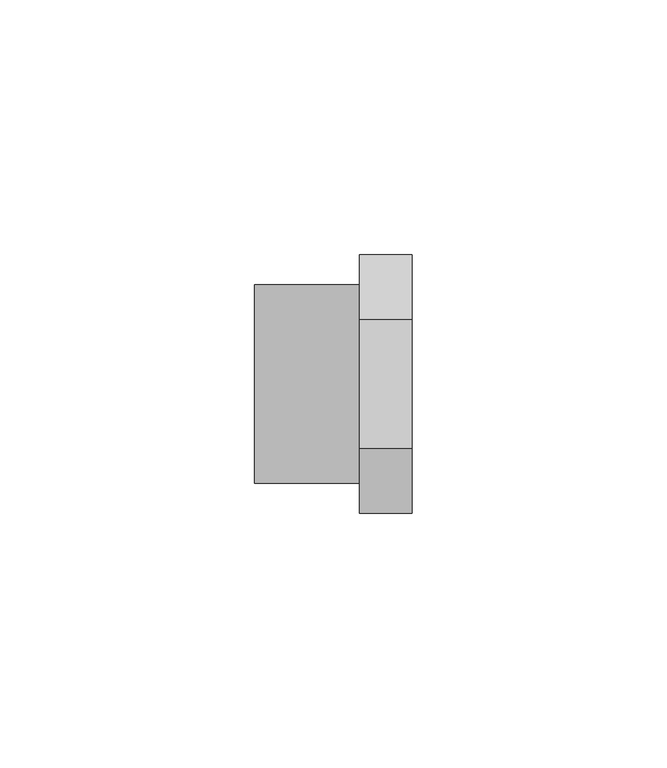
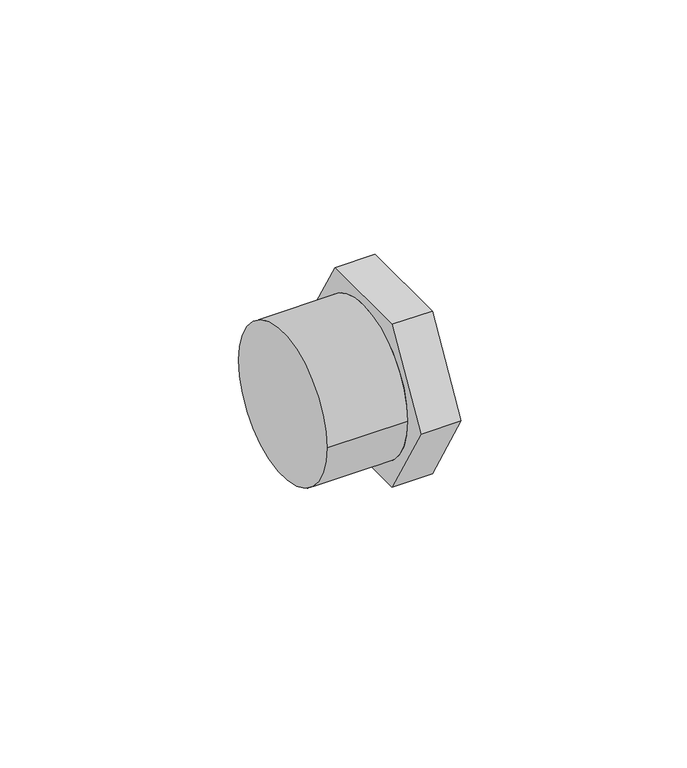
"""IFC4 building model written with IfcOpenShell, lengths in millimetres: pipe fitting geometry, 01011080 : Réductions courtes MxF."""

from ifc_helpers import new_model, si_unit, point, frame, origin, origin_2d, place, context, project, spatial, circle_curve, trimmed, segment, composite_curve, outline, extrude, source, transform, mapped, element, save
from ifc_brep_helpers import plane_surface, cylinder_surface, advanced_brep


def pipe_fitting_d2936eeb(model_context):
    return source(origin(), model_context, "Body", "SolidModel", [
        extrude(outline(composite_curve([segment(trimmed(circle_curve(origin_2d(), 19.525), [point((-19.525, 0.0))], [point((19.525, 0.0))], False, "CARTESIAN"), True, "CONTINUOUS"), segment(trimmed(circle_curve(origin_2d(), 19.525), [point((19.525, 0.0))], [point((-19.525, 0.0))], False, "CARTESIAN"), True, "CONTINUOUS")], self_intersect=False)), frame((0.0, 0.0, 0.0), z_axis=(1.0, 0.0, 0.0), x_axis=(0.0, 1.0, 0.0)), (0.0, 0.0, 1.0), 20.6666667),
        advanced_brep(
        [(31.0, -12.7017059, 22.0), (31.0, -25.4034118, 0.0), (31.0, -12.7017059, -22.0), (31.0, 12.7017059, -22.0), (31.0, 25.4034118, 0.0), (31.0, 12.7017059, 22.0), (20.6666667, -12.7017059, 22.0), (20.6666667, 12.7017059, 22.0), (20.6666667, 25.4034118, 0.0), (20.6666667, 12.7017059, -22.0), (20.6666667, -12.7017059, -22.0), (20.6666667, -25.4034118, 0.0), (20.6666667, 19.525, 0.0), (20.6666667, -19.525, 0.0), (0.0, 19.525, 0.0), (0.0, -19.525, 0.0)],
        [
            (0, 1),
            (1, 2),
            (2, 3),
            (3, 4),
            (4, 5),
            (5, 0),
            (6, 7),
            (7, 8),
            (8, 9),
            (9, 10),
            (10, 11),
            (11, 6),
            (12, 13, circle_curve(frame((20.6666667, 0.0, 0.0), z_axis=(1.0, 0.0, 0.0), x_axis=(0.0, 1.0, 0.0)), 19.525)),
            (13, 12, circle_curve(frame((20.6666667, 0.0, 0.0), z_axis=(1.0, 0.0, 0.0), x_axis=(0.0, 1.0, 0.0)), 19.525)),
            (0, 6),
            (11, 1),
            (10, 2),
            (9, 3),
            (8, 4),
            (7, 5),
            (14, 15, circle_curve(frame((0.0, 0.0, 0.0), z_axis=(1.0, 0.0, 0.0), x_axis=(0.0, 1.0, 0.0)), 19.525)),
            (15, 13),
            (12, 14),
            (15, 14, circle_curve(frame((0.0, 0.0, 0.0), z_axis=(1.0, 0.0, 0.0), x_axis=(0.0, 1.0, 0.0)), 19.525)),
        ],
        [
            plane_surface(frame((31.0, -12.7017059, 22.0), z_axis=(1.0, 0.0, 0.0), x_axis=(0.0, -0.5000000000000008, -0.8660254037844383))),
            plane_surface(frame((20.6666667, -12.7017059, 22.0), z_axis=(-1.0, 0.0, 0.0), x_axis=(0.0, 0.5000000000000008, 0.8660254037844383))),
            plane_surface(frame((31.0, -12.7017059, 22.0), z_axis=(0.0, -0.8660254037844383, 0.5000000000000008), x_axis=(-1.0, 0.0, 0.0))),
            plane_surface(frame((31.0, -25.4034118, 0.0), z_axis=(0.0, -0.8660254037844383, -0.5000000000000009), x_axis=(-1.0, 0.0, 0.0))),
            plane_surface(frame((31.0, -12.7017059, -22.0), z_axis=(0.0, 0.0, -1.0), x_axis=(-1.0, 0.0, 0.0))),
            plane_surface(frame((31.0, 12.7017059, -22.0), z_axis=(0.0, 0.8660254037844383, -0.5000000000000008), x_axis=(-1.0, 0.0, 0.0))),
            plane_surface(frame((31.0, 25.4034118, 0.0), z_axis=(0.0, 0.8660254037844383, 0.5000000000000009), x_axis=(-1.0, 0.0, 0.0))),
            plane_surface(frame((31.0, 12.7017059, 22.0), z_axis=(0.0, 0.0, 1.0), x_axis=(-1.0, 0.0, 0.0))),
            cylinder_surface(frame((0.0, 0.0, 0.0), z_axis=(-1.0, 0.0, 0.0), x_axis=(0.0, 1.0, 0.0)), 19.525),
            plane_surface(frame((0.0, 0.0, 0.0), z_axis=(-1.0, 0.0, 0.0), x_axis=(0.0, 0.0, 1.0))),
        ],
        [
            (0, [[1, 2, 3, 4, 5, 6]]),
            (1, [[7, 8, 9, 10, 11, 12], [13, 14]]),
            (2, [[-1, 15, -12, 16]]),
            (3, [[-2, -16, -11, 17]]),
            (4, [[-3, -17, -10, 18]]),
            (5, [[-4, -18, -9, 19]]),
            (6, [[-5, -19, -8, 20]]),
            (7, [[-6, -20, -7, -15]]),
            (8, [[21, 22, -13, 23]]),
            (8, [[24, -23, -14, -22]]),
            (9, [[-21, -24]]),
        ],
    ),
    ])


if __name__ == "__main__":
    model = new_model("IFC4")
    model_context = context("Model", 3, world=origin())
    ifc_project = project(units=[si_unit("LENGTHUNIT", "METRE", prefix="MILLI")], contexts=[model_context])
    site = spatial("IfcSite", under=ifc_project)
    building = spatial("IfcBuilding", under=site)
    placement = place(None, origin())
    pipe_fitting_shape = pipe_fitting_d2936eeb(model_context)
    element("IfcPipeFitting", 1, ObjectType="01011080 : Réductions courtes MxF", at=placement, inside=building, context=model_context, shape_type="MappedRepresentation", body=[
        mapped(pipe_fitting_shape, transform((0.0, 0.0, 0.0), x_axis=(1.0, 0.0, 0.0), y_axis=(0.0, 1.0, 0.0), z_axis=(0.0, 0.0, 1.0))),
    ])
    save(model, "model.ifc")
